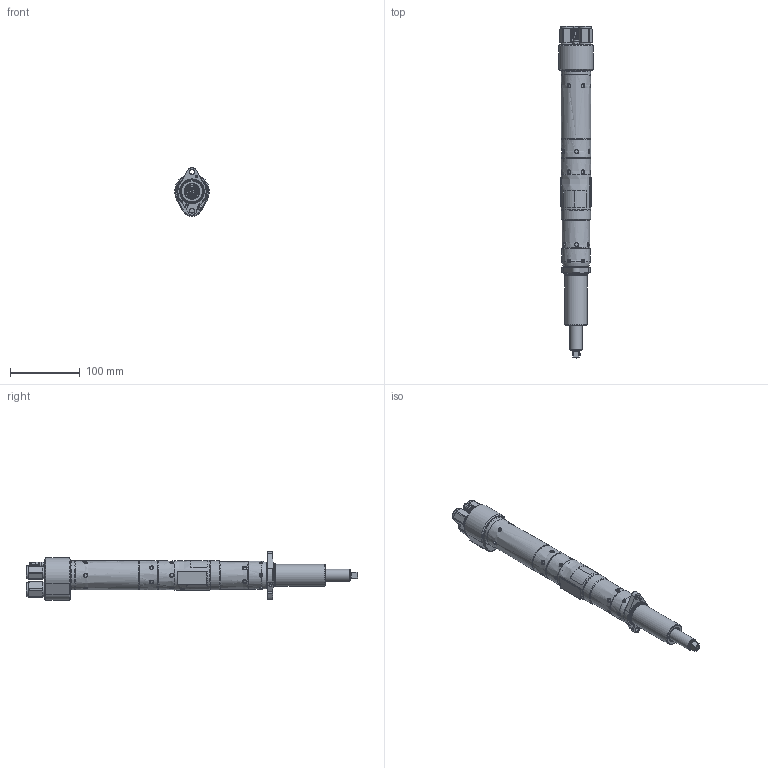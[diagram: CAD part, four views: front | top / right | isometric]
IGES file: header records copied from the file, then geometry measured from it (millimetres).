
Global section: file name: D:\share\siji\QA6 & QA8 MODEL\QA8 REMOTE SHUTOFF\45498490\45498490.igs; native system: Unigraphics Version X V2.0; preprocessor: Unigraphics NX IGES V2.0; date: 20070519.111011; units: inch
Bounding box: 49.95 x 477.68 x 70.07 mm (x, y, z)
Surface area: 89235.3 mm2 (no closed solid volume)
Topology: 0 solids, 0 shells, 641 faces, 10959 edges, 10850 vertices
Faces by surface type: revolution 411, extrusion 226, bspline 4
